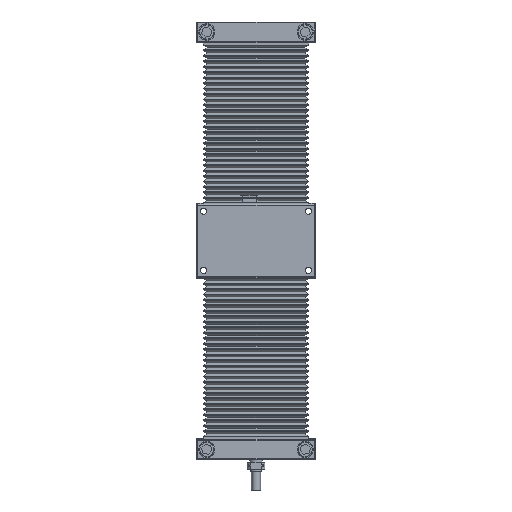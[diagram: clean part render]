
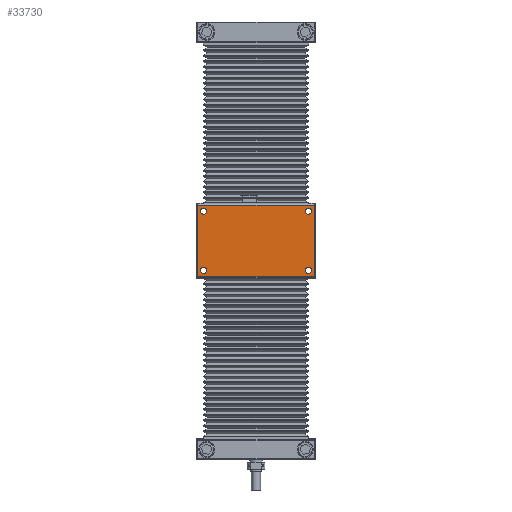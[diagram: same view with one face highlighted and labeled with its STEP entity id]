
A CAD part, front view. The second image highlights one B-rep face of the part: STEP entity #33730.
In plain terms, the highlighted planar face has unit normal (0, -1, 0).
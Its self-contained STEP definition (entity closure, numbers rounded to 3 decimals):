
#481 = CARTESIAN_POINT ( 'NONE',  ( 64., -23., 79. ) ) ;
#487 = EDGE_CURVE ( 'NONE', #36534, #28884, #8205, .T. ) ;
#775 = DIRECTION ( 'NONE',  ( 0., 1., 0. ) ) ;
#1368 = LINE ( 'NONE', #13531, #44559 ) ;
#2319 = DIRECTION ( 'NONE',  ( 0., 0., 1. ) ) ;
#3070 = CARTESIAN_POINT ( 'NONE',  ( -57.5, -23., 69.1 ) ) ;
#3894 = CARTESIAN_POINT ( 'NONE',  ( -57.5, -23., 4.1 ) ) ;
#5705 = CARTESIAN_POINT ( 'NONE',  ( -57.5, -23., 75.9 ) ) ;
#6234 = ORIENTED_EDGE ( 'NONE', *, *, #48187, .T. ) ;
#6554 = CARTESIAN_POINT ( 'NONE',  ( 57.5, -23., 72.5 ) ) ;
#6593 = EDGE_LOOP ( 'NONE', ( #36281, #6652 ) ) ;
#6652 = ORIENTED_EDGE ( 'NONE', *, *, #35372, .T. ) ;
#6744 = CARTESIAN_POINT ( 'NONE',  ( 64., -23., 80. ) ) ;
#7470 = LINE ( 'NONE', #31520, #18073 ) ;
#7668 = CARTESIAN_POINT ( 'NONE',  ( 57.5, -23., 75.9 ) ) ;
#7790 = CIRCLE ( 'NONE', #22131, 3.4 ) ;
#8205 = LINE ( 'NONE', #49152, #26350 ) ;
#8283 = DIRECTION ( 'NONE',  ( 0., 1., 0. ) ) ;
#8548 = ORIENTED_EDGE ( 'NONE', *, *, #17934, .T. ) ;
#8564 = AXIS2_PLACEMENT_3D ( 'NONE', #14486, #31138, #43293 ) ;
#8609 = CARTESIAN_POINT ( 'NONE',  ( -64., -23., 1. ) ) ;
#9011 = DIRECTION ( 'NONE',  ( 0., 1., 0. ) ) ;
#9565 = CARTESIAN_POINT ( 'NONE',  ( 57.5, -23., 4.1 ) ) ;
#9664 = CIRCLE ( 'NONE', #23174, 3.4 ) ;
#10084 = DIRECTION ( 'NONE',  ( -1., 0., 0. ) ) ;
#10174 = CARTESIAN_POINT ( 'NONE',  ( -64., -23., 79. ) ) ;
#11166 = CARTESIAN_POINT ( 'NONE',  ( 64., -23., 1. ) ) ;
#11314 = ORIENTED_EDGE ( 'NONE', *, *, #20826, .T. ) ;
#11745 = EDGE_CURVE ( 'NONE', #14775, #47336, #1368, .T. ) ;
#11924 = VERTEX_POINT ( 'NONE', #9565 ) ;
#12073 = CARTESIAN_POINT ( 'NONE',  ( 57.5, -23., 72.5 ) ) ;
#12439 = AXIS2_PLACEMENT_3D ( 'NONE', #45198, #775, #41487 ) ;
#13531 = CARTESIAN_POINT ( 'NONE',  ( -65., -23., 79. ) ) ;
#13733 = CIRCLE ( 'NONE', #28936, 3.4 ) ;
#13793 = ORIENTED_EDGE ( 'NONE', *, *, #48512, .T. ) ;
#14113 = AXIS2_PLACEMENT_3D ( 'NONE', #30012, #29763, #40452 ) ;
#14486 = CARTESIAN_POINT ( 'NONE',  ( -65., -23., 80. ) ) ;
#14775 = VERTEX_POINT ( 'NONE', #481 ) ;
#14930 = LINE ( 'NONE', #6744, #42331 ) ;
#15110 = ORIENTED_EDGE ( 'NONE', *, *, #35841, .T. ) ;
#15392 = AXIS2_PLACEMENT_3D ( 'NONE', #21135, #37261, #17168 ) ;
#16479 = DIRECTION ( 'NONE',  ( 0., 0., 1. ) ) ;
#17153 = CARTESIAN_POINT ( 'NONE',  ( 57.5, -23., 7.5 ) ) ;
#17168 = DIRECTION ( 'NONE',  ( 0., 0., 1. ) ) ;
#17934 = EDGE_CURVE ( 'NONE', #44879, #41711, #37760, .T. ) ;
#18073 = VECTOR ( 'NONE', #39199, 1000. ) ;
#19221 = DIRECTION ( 'NONE',  ( 0., 1., 0. ) ) ;
#20061 = VERTEX_POINT ( 'NONE', #3894 ) ;
#20383 = CARTESIAN_POINT ( 'NONE',  ( 57.5, -23., 7.5 ) ) ;
#20826 = EDGE_CURVE ( 'NONE', #28884, #14775, #14930, .T. ) ;
#21085 = ORIENTED_EDGE ( 'NONE', *, *, #46871, .T. ) ;
#21135 = CARTESIAN_POINT ( 'NONE',  ( -57.5, -23., 7.5 ) ) ;
#21145 = DIRECTION ( 'NONE',  ( 1., 0., 0. ) ) ;
#21372 = DIRECTION ( 'NONE',  ( 0., 0., 1. ) ) ;
#22131 = AXIS2_PLACEMENT_3D ( 'NONE', #29420, #8283, #16479 ) ;
#22700 = FACE_OUTER_BOUND ( 'NONE', #44418, .T. ) ;
#23008 = EDGE_LOOP ( 'NONE', ( #13793, #21085 ) ) ;
#23174 = AXIS2_PLACEMENT_3D ( 'NONE', #6554, #41999, #2319 ) ;
#23363 = ORIENTED_EDGE ( 'NONE', *, *, #487, .T. ) ;
#23510 = VERTEX_POINT ( 'NONE', #7668 ) ;
#23594 = CARTESIAN_POINT ( 'NONE',  ( 57.5, -23., 10.9 ) ) ;
#23626 = EDGE_CURVE ( 'NONE', #41711, #44879, #35210, .T. ) ;
#26350 = VECTOR ( 'NONE', #21145, 1000. ) ;
#26481 = VERTEX_POINT ( 'NONE', #46412 ) ;
#28884 = VERTEX_POINT ( 'NONE', #11166 ) ;
#28936 = AXIS2_PLACEMENT_3D ( 'NONE', #20383, #9011, #36255 ) ;
#29420 = CARTESIAN_POINT ( 'NONE',  ( -57.5, -23., 7.5 ) ) ;
#29589 = EDGE_LOOP ( 'NONE', ( #51694, #8548 ) ) ;
#29763 = DIRECTION ( 'NONE',  ( 0., 1., 0. ) ) ;
#30012 = CARTESIAN_POINT ( 'NONE',  ( -57.5, -23., 72.5 ) ) ;
#30608 = FACE_BOUND ( 'NONE', #52217, .T. ) ;
#31138 = DIRECTION ( 'NONE',  ( 0., 1., 0. ) ) ;
#31520 = CARTESIAN_POINT ( 'NONE',  ( -64., -23., 80. ) ) ;
#33278 = DIRECTION ( 'NONE',  ( 0., 1., 0. ) ) ;
#33730 = ADVANCED_FACE ( 'NONE', ( #22700, #38300, #39344, #30608, #35108 ), #34587, .F. ) ;
#34587 = PLANE ( 'NONE',  #8564 ) ;
#35108 = FACE_BOUND ( 'NONE', #23008, .T. ) ;
#35210 = CIRCLE ( 'NONE', #12439, 3.4 ) ;
#35372 = EDGE_CURVE ( 'NONE', #20061, #36319, #7790, .T. ) ;
#35748 = CIRCLE ( 'NONE', #40831, 3.4 ) ;
#35841 = EDGE_CURVE ( 'NONE', #11924, #40932, #13733, .T. ) ;
#36255 = DIRECTION ( 'NONE',  ( 0., 0., 1. ) ) ;
#36281 = ORIENTED_EDGE ( 'NONE', *, *, #43381, .T. ) ;
#36298 = DIRECTION ( 'NONE',  ( 0., 0., 1. ) ) ;
#36319 = VERTEX_POINT ( 'NONE', #38838 ) ;
#36534 = VERTEX_POINT ( 'NONE', #8609 ) ;
#37261 = DIRECTION ( 'NONE',  ( 0., 1., 0. ) ) ;
#37760 = CIRCLE ( 'NONE', #14113, 3.4 ) ;
#38300 = FACE_BOUND ( 'NONE', #6593, .T. ) ;
#38838 = CARTESIAN_POINT ( 'NONE',  ( -57.5, -23., 10.9 ) ) ;
#39199 = DIRECTION ( 'NONE',  ( 0., 0., -1. ) ) ;
#39344 = FACE_BOUND ( 'NONE', #29589, .T. ) ;
#39490 = ORIENTED_EDGE ( 'NONE', *, *, #41142, .T. ) ;
#40452 = DIRECTION ( 'NONE',  ( 0., 0., 1. ) ) ;
#40831 = AXIS2_PLACEMENT_3D ( 'NONE', #12073, #19221, #44335 ) ;
#40932 = VERTEX_POINT ( 'NONE', #23594 ) ;
#41142 = EDGE_CURVE ( 'NONE', #40932, #11924, #41785, .T. ) ;
#41487 = DIRECTION ( 'NONE',  ( 0., 0., 1. ) ) ;
#41711 = VERTEX_POINT ( 'NONE', #5705 ) ;
#41785 = CIRCLE ( 'NONE', #51877, 3.4 ) ;
#41999 = DIRECTION ( 'NONE',  ( 0., 1., 0. ) ) ;
#42259 = ORIENTED_EDGE ( 'NONE', *, *, #11745, .T. ) ;
#42331 = VECTOR ( 'NONE', #36298, 1000. ) ;
#42422 = CIRCLE ( 'NONE', #15392, 3.4 ) ;
#43293 = DIRECTION ( 'NONE',  ( 0., 0., 1. ) ) ;
#43381 = EDGE_CURVE ( 'NONE', #36319, #20061, #42422, .T. ) ;
#44335 = DIRECTION ( 'NONE',  ( 0., 0., 1. ) ) ;
#44418 = EDGE_LOOP ( 'NONE', ( #42259, #6234, #23363, #11314 ) ) ;
#44559 = VECTOR ( 'NONE', #10084, 1000. ) ;
#44879 = VERTEX_POINT ( 'NONE', #3070 ) ;
#45198 = CARTESIAN_POINT ( 'NONE',  ( -57.5, -23., 72.5 ) ) ;
#46412 = CARTESIAN_POINT ( 'NONE',  ( 57.5, -23., 69.1 ) ) ;
#46871 = EDGE_CURVE ( 'NONE', #26481, #23510, #35748, .T. ) ;
#47336 = VERTEX_POINT ( 'NONE', #10174 ) ;
#48187 = EDGE_CURVE ( 'NONE', #47336, #36534, #7470, .T. ) ;
#48512 = EDGE_CURVE ( 'NONE', #23510, #26481, #9664, .T. ) ;
#49152 = CARTESIAN_POINT ( 'NONE',  ( -65., -23., 1. ) ) ;
#51694 = ORIENTED_EDGE ( 'NONE', *, *, #23626, .T. ) ;
#51877 = AXIS2_PLACEMENT_3D ( 'NONE', #17153, #33278, #21372 ) ;
#52217 = EDGE_LOOP ( 'NONE', ( #39490, #15110 ) ) ;
